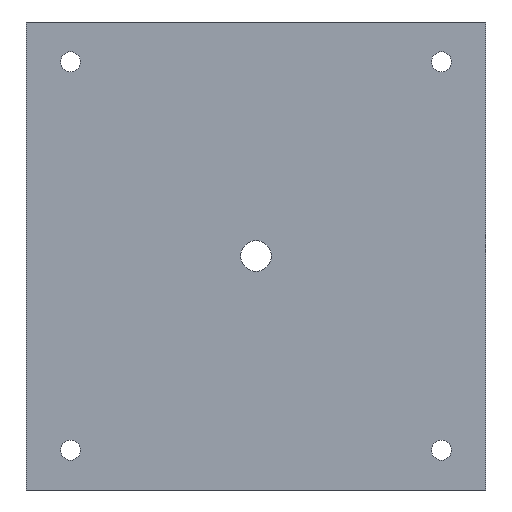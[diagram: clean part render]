
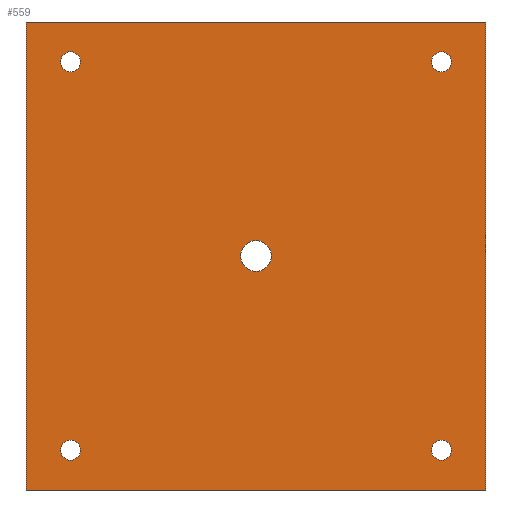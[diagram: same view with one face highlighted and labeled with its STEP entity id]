
A CAD part, front view. The second image highlights one B-rep face of the part: STEP entity #559.
In plain terms, the highlighted planar face has unit normal (0, -1, 0).
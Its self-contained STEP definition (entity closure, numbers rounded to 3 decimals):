
#24 = VERTEX_POINT('',#25);
#25 = CARTESIAN_POINT('',(-52.,-7.,-53.));
#32 = PLANE('',#33);
#33 = AXIS2_PLACEMENT_3D('',#34,#35,#36);
#34 = CARTESIAN_POINT('',(-52.,0.,-53.));
#35 = DIRECTION('',(-0.,0.,1.));
#36 = DIRECTION('',(1.,0.,0.));
#44 = PLANE('',#45);
#45 = AXIS2_PLACEMENT_3D('',#46,#47,#48);
#46 = CARTESIAN_POINT('',(-52.,0.,53.));
#47 = DIRECTION('',(1.,0.,0.));
#48 = DIRECTION('',(0.,0.,-1.));
#56 = EDGE_CURVE('',#24,#57,#59,.T.);
#57 = VERTEX_POINT('',#58);
#58 = CARTESIAN_POINT('',(52.,-7.,-53.));
#59 = SURFACE_CURVE('',#60,(#64,#71),.PCURVE_S1.);
#60 = LINE('',#61,#62);
#61 = CARTESIAN_POINT('',(-52.,-7.,-53.));
#62 = VECTOR('',#63,1.);
#63 = DIRECTION('',(1.,0.,0.));
#64 = PCURVE('',#32,#65);
#65 = DEFINITIONAL_REPRESENTATION('',(#66),#70);
#66 = LINE('',#67,#68);
#67 = CARTESIAN_POINT('',(0.,-7.));
#68 = VECTOR('',#69,1.);
#69 = DIRECTION('',(1.,0.));
#70 = ( GEOMETRIC_REPRESENTATION_CONTEXT(2) 
PARAMETRIC_REPRESENTATION_CONTEXT() REPRESENTATION_CONTEXT('2D SPACE',''
  ) );
#71 = PCURVE('',#72,#77);
#72 = PLANE('',#73);
#73 = AXIS2_PLACEMENT_3D('',#74,#75,#76);
#74 = CARTESIAN_POINT('',(0.,-7.,0.));
#75 = DIRECTION('',(-0.,-1.,-0.));
#76 = DIRECTION('',(0.,0.,-1.));
#77 = DEFINITIONAL_REPRESENTATION('',(#78),#82);
#78 = LINE('',#79,#80);
#79 = CARTESIAN_POINT('',(53.,-52.));
#80 = VECTOR('',#81,1.);
#81 = DIRECTION('',(0.,1.));
#82 = ( GEOMETRIC_REPRESENTATION_CONTEXT(2) 
PARAMETRIC_REPRESENTATION_CONTEXT() REPRESENTATION_CONTEXT('2D SPACE',''
  ) );
#100 = PLANE('',#101);
#101 = AXIS2_PLACEMENT_3D('',#102,#103,#104);
#102 = CARTESIAN_POINT('',(52.,0.,-53.));
#103 = DIRECTION('',(-1.,0.,0.));
#104 = DIRECTION('',(0.,0.,1.));
#144 = VERTEX_POINT('',#145);
#145 = CARTESIAN_POINT('',(-52.,-7.,53.));
#159 = PLANE('',#160);
#160 = AXIS2_PLACEMENT_3D('',#161,#162,#163);
#161 = CARTESIAN_POINT('',(52.,0.,53.));
#162 = DIRECTION('',(-0.,-0.,-1.));
#163 = DIRECTION('',(-1.,0.,0.));
#171 = EDGE_CURVE('',#144,#24,#172,.T.);
#172 = SURFACE_CURVE('',#173,(#177,#184),.PCURVE_S1.);
#173 = LINE('',#174,#175);
#174 = CARTESIAN_POINT('',(-52.,-7.,53.));
#175 = VECTOR('',#176,1.);
#176 = DIRECTION('',(0.,0.,-1.));
#177 = PCURVE('',#44,#178);
#178 = DEFINITIONAL_REPRESENTATION('',(#179),#183);
#179 = LINE('',#180,#181);
#180 = CARTESIAN_POINT('',(0.,-7.));
#181 = VECTOR('',#182,1.);
#182 = DIRECTION('',(1.,0.));
#183 = ( GEOMETRIC_REPRESENTATION_CONTEXT(2) 
PARAMETRIC_REPRESENTATION_CONTEXT() REPRESENTATION_CONTEXT('2D SPACE',''
  ) );
#184 = PCURVE('',#72,#185);
#185 = DEFINITIONAL_REPRESENTATION('',(#186),#190);
#186 = LINE('',#187,#188);
#187 = CARTESIAN_POINT('',(-53.,-52.));
#188 = VECTOR('',#189,1.);
#189 = DIRECTION('',(1.,0.));
#190 = ( GEOMETRIC_REPRESENTATION_CONTEXT(2) 
PARAMETRIC_REPRESENTATION_CONTEXT() REPRESENTATION_CONTEXT('2D SPACE',''
  ) );
#218 = EDGE_CURVE('',#57,#219,#221,.T.);
#219 = VERTEX_POINT('',#220);
#220 = CARTESIAN_POINT('',(52.,-7.,53.));
#221 = SURFACE_CURVE('',#222,(#226,#233),.PCURVE_S1.);
#222 = LINE('',#223,#224);
#223 = CARTESIAN_POINT('',(52.,-7.,-53.));
#224 = VECTOR('',#225,1.);
#225 = DIRECTION('',(0.,0.,1.));
#226 = PCURVE('',#100,#227);
#227 = DEFINITIONAL_REPRESENTATION('',(#228),#232);
#228 = LINE('',#229,#230);
#229 = CARTESIAN_POINT('',(0.,-7.));
#230 = VECTOR('',#231,1.);
#231 = DIRECTION('',(1.,0.));
#232 = ( GEOMETRIC_REPRESENTATION_CONTEXT(2) 
PARAMETRIC_REPRESENTATION_CONTEXT() REPRESENTATION_CONTEXT('2D SPACE',''
  ) );
#233 = PCURVE('',#72,#234);
#234 = DEFINITIONAL_REPRESENTATION('',(#235),#239);
#235 = LINE('',#236,#237);
#236 = CARTESIAN_POINT('',(53.,52.));
#237 = VECTOR('',#238,1.);
#238 = DIRECTION('',(-1.,0.));
#239 = ( GEOMETRIC_REPRESENTATION_CONTEXT(2) 
PARAMETRIC_REPRESENTATION_CONTEXT() REPRESENTATION_CONTEXT('2D SPACE',''
  ) );
#331 = CYLINDRICAL_SURFACE('',#332,2.25);
#332 = AXIS2_PLACEMENT_3D('',#333,#334,#335);
#333 = CARTESIAN_POINT('',(-42.,0.,44.));
#334 = DIRECTION('',(0.,-1.,0.));
#335 = DIRECTION('',(1.,0.,0.));
#362 = CYLINDRICAL_SURFACE('',#363,2.25);
#363 = AXIS2_PLACEMENT_3D('',#364,#365,#366);
#364 = CARTESIAN_POINT('',(-42.,0.,-44.));
#365 = DIRECTION('',(0.,-1.,0.));
#366 = DIRECTION('',(1.,0.,0.));
#455 = CYLINDRICAL_SURFACE('',#456,2.25);
#456 = AXIS2_PLACEMENT_3D('',#457,#458,#459);
#457 = CARTESIAN_POINT('',(42.,0.,44.));
#458 = DIRECTION('',(0.,-1.,0.));
#459 = DIRECTION('',(1.,0.,0.));
#548 = CYLINDRICAL_SURFACE('',#549,2.25);
#549 = AXIS2_PLACEMENT_3D('',#550,#551,#552);
#550 = CARTESIAN_POINT('',(42.,0.,-44.));
#551 = DIRECTION('',(0.,-1.,0.));
#552 = DIRECTION('',(1.,0.,0.));
#559 = ADVANCED_FACE('',(#560,#586,#612,#638,#664,#695),#72,.T.);
#560 = FACE_BOUND('',#561,.T.);
#561 = EDGE_LOOP('',(#562,#563,#564,#585));
#562 = ORIENTED_EDGE('',*,*,#56,.T.);
#563 = ORIENTED_EDGE('',*,*,#218,.T.);
#564 = ORIENTED_EDGE('',*,*,#565,.T.);
#565 = EDGE_CURVE('',#219,#144,#566,.T.);
#566 = SURFACE_CURVE('',#567,(#571,#578),.PCURVE_S1.);
#567 = LINE('',#568,#569);
#568 = CARTESIAN_POINT('',(52.,-7.,53.));
#569 = VECTOR('',#570,1.);
#570 = DIRECTION('',(-1.,0.,0.));
#571 = PCURVE('',#72,#572);
#572 = DEFINITIONAL_REPRESENTATION('',(#573),#577);
#573 = LINE('',#574,#575);
#574 = CARTESIAN_POINT('',(-53.,52.));
#575 = VECTOR('',#576,1.);
#576 = DIRECTION('',(0.,-1.));
#577 = ( GEOMETRIC_REPRESENTATION_CONTEXT(2) 
PARAMETRIC_REPRESENTATION_CONTEXT() REPRESENTATION_CONTEXT('2D SPACE',''
  ) );
#578 = PCURVE('',#159,#579);
#579 = DEFINITIONAL_REPRESENTATION('',(#580),#584);
#580 = LINE('',#581,#582);
#581 = CARTESIAN_POINT('',(0.,-7.));
#582 = VECTOR('',#583,1.);
#583 = DIRECTION('',(1.,0.));
#584 = ( GEOMETRIC_REPRESENTATION_CONTEXT(2) 
PARAMETRIC_REPRESENTATION_CONTEXT() REPRESENTATION_CONTEXT('2D SPACE',''
  ) );
#585 = ORIENTED_EDGE('',*,*,#171,.T.);
#586 = FACE_BOUND('',#587,.T.);
#587 = EDGE_LOOP('',(#588));
#588 = ORIENTED_EDGE('',*,*,#589,.F.);
#589 = EDGE_CURVE('',#590,#590,#592,.T.);
#590 = VERTEX_POINT('',#591);
#591 = CARTESIAN_POINT('',(-39.75,-7.,44.));
#592 = SURFACE_CURVE('',#593,(#598,#605),.PCURVE_S1.);
#593 = CIRCLE('',#594,2.25);
#594 = AXIS2_PLACEMENT_3D('',#595,#596,#597);
#595 = CARTESIAN_POINT('',(-42.,-7.,44.));
#596 = DIRECTION('',(0.,-1.,0.));
#597 = DIRECTION('',(1.,0.,0.));
#598 = PCURVE('',#72,#599);
#599 = DEFINITIONAL_REPRESENTATION('',(#600),#604);
#600 = CIRCLE('',#601,2.25);
#601 = AXIS2_PLACEMENT_2D('',#602,#603);
#602 = CARTESIAN_POINT('',(-44.,-42.));
#603 = DIRECTION('',(0.,1.));
#604 = ( GEOMETRIC_REPRESENTATION_CONTEXT(2) 
PARAMETRIC_REPRESENTATION_CONTEXT() REPRESENTATION_CONTEXT('2D SPACE',''
  ) );
#605 = PCURVE('',#331,#606);
#606 = DEFINITIONAL_REPRESENTATION('',(#607),#611);
#607 = LINE('',#608,#609);
#608 = CARTESIAN_POINT('',(0.,7.));
#609 = VECTOR('',#610,1.);
#610 = DIRECTION('',(1.,0.));
#611 = ( GEOMETRIC_REPRESENTATION_CONTEXT(2) 
PARAMETRIC_REPRESENTATION_CONTEXT() REPRESENTATION_CONTEXT('2D SPACE',''
  ) );
#612 = FACE_BOUND('',#613,.T.);
#613 = EDGE_LOOP('',(#614));
#614 = ORIENTED_EDGE('',*,*,#615,.F.);
#615 = EDGE_CURVE('',#616,#616,#618,.T.);
#616 = VERTEX_POINT('',#617);
#617 = CARTESIAN_POINT('',(-39.75,-7.,-44.));
#618 = SURFACE_CURVE('',#619,(#624,#631),.PCURVE_S1.);
#619 = CIRCLE('',#620,2.25);
#620 = AXIS2_PLACEMENT_3D('',#621,#622,#623);
#621 = CARTESIAN_POINT('',(-42.,-7.,-44.));
#622 = DIRECTION('',(0.,-1.,0.));
#623 = DIRECTION('',(1.,0.,0.));
#624 = PCURVE('',#72,#625);
#625 = DEFINITIONAL_REPRESENTATION('',(#626),#630);
#626 = CIRCLE('',#627,2.25);
#627 = AXIS2_PLACEMENT_2D('',#628,#629);
#628 = CARTESIAN_POINT('',(44.,-42.));
#629 = DIRECTION('',(0.,1.));
#630 = ( GEOMETRIC_REPRESENTATION_CONTEXT(2) 
PARAMETRIC_REPRESENTATION_CONTEXT() REPRESENTATION_CONTEXT('2D SPACE',''
  ) );
#631 = PCURVE('',#362,#632);
#632 = DEFINITIONAL_REPRESENTATION('',(#633),#637);
#633 = LINE('',#634,#635);
#634 = CARTESIAN_POINT('',(0.,7.));
#635 = VECTOR('',#636,1.);
#636 = DIRECTION('',(1.,0.));
#637 = ( GEOMETRIC_REPRESENTATION_CONTEXT(2) 
PARAMETRIC_REPRESENTATION_CONTEXT() REPRESENTATION_CONTEXT('2D SPACE',''
  ) );
#638 = FACE_BOUND('',#639,.T.);
#639 = EDGE_LOOP('',(#640));
#640 = ORIENTED_EDGE('',*,*,#641,.F.);
#641 = EDGE_CURVE('',#642,#642,#644,.T.);
#642 = VERTEX_POINT('',#643);
#643 = CARTESIAN_POINT('',(44.25,-7.,44.));
#644 = SURFACE_CURVE('',#645,(#650,#657),.PCURVE_S1.);
#645 = CIRCLE('',#646,2.25);
#646 = AXIS2_PLACEMENT_3D('',#647,#648,#649);
#647 = CARTESIAN_POINT('',(42.,-7.,44.));
#648 = DIRECTION('',(0.,-1.,0.));
#649 = DIRECTION('',(1.,0.,0.));
#650 = PCURVE('',#72,#651);
#651 = DEFINITIONAL_REPRESENTATION('',(#652),#656);
#652 = CIRCLE('',#653,2.25);
#653 = AXIS2_PLACEMENT_2D('',#654,#655);
#654 = CARTESIAN_POINT('',(-44.,42.));
#655 = DIRECTION('',(0.,1.));
#656 = ( GEOMETRIC_REPRESENTATION_CONTEXT(2) 
PARAMETRIC_REPRESENTATION_CONTEXT() REPRESENTATION_CONTEXT('2D SPACE',''
  ) );
#657 = PCURVE('',#455,#658);
#658 = DEFINITIONAL_REPRESENTATION('',(#659),#663);
#659 = LINE('',#660,#661);
#660 = CARTESIAN_POINT('',(0.,7.));
#661 = VECTOR('',#662,1.);
#662 = DIRECTION('',(1.,0.));
#663 = ( GEOMETRIC_REPRESENTATION_CONTEXT(2) 
PARAMETRIC_REPRESENTATION_CONTEXT() REPRESENTATION_CONTEXT('2D SPACE',''
  ) );
#664 = FACE_BOUND('',#665,.T.);
#665 = EDGE_LOOP('',(#666));
#666 = ORIENTED_EDGE('',*,*,#667,.F.);
#667 = EDGE_CURVE('',#668,#668,#670,.T.);
#668 = VERTEX_POINT('',#669);
#669 = CARTESIAN_POINT('',(3.5,-7.,0.));
#670 = SURFACE_CURVE('',#671,(#676,#683),.PCURVE_S1.);
#671 = CIRCLE('',#672,3.5);
#672 = AXIS2_PLACEMENT_3D('',#673,#674,#675);
#673 = CARTESIAN_POINT('',(0.,-7.,0.));
#674 = DIRECTION('',(0.,-1.,0.));
#675 = DIRECTION('',(1.,0.,0.));
#676 = PCURVE('',#72,#677);
#677 = DEFINITIONAL_REPRESENTATION('',(#678),#682);
#678 = CIRCLE('',#679,3.5);
#679 = AXIS2_PLACEMENT_2D('',#680,#681);
#680 = CARTESIAN_POINT('',(0.,0.));
#681 = DIRECTION('',(0.,1.));
#682 = ( GEOMETRIC_REPRESENTATION_CONTEXT(2) 
PARAMETRIC_REPRESENTATION_CONTEXT() REPRESENTATION_CONTEXT('2D SPACE',''
  ) );
#683 = PCURVE('',#684,#689);
#684 = CYLINDRICAL_SURFACE('',#685,3.5);
#685 = AXIS2_PLACEMENT_3D('',#686,#687,#688);
#686 = CARTESIAN_POINT('',(0.,0.,0.));
#687 = DIRECTION('',(0.,-1.,0.));
#688 = DIRECTION('',(1.,0.,0.));
#689 = DEFINITIONAL_REPRESENTATION('',(#690),#694);
#690 = LINE('',#691,#692);
#691 = CARTESIAN_POINT('',(0.,7.));
#692 = VECTOR('',#693,1.);
#693 = DIRECTION('',(1.,0.));
#694 = ( GEOMETRIC_REPRESENTATION_CONTEXT(2) 
PARAMETRIC_REPRESENTATION_CONTEXT() REPRESENTATION_CONTEXT('2D SPACE',''
  ) );
#695 = FACE_BOUND('',#696,.T.);
#696 = EDGE_LOOP('',(#697));
#697 = ORIENTED_EDGE('',*,*,#698,.F.);
#698 = EDGE_CURVE('',#699,#699,#701,.T.);
#699 = VERTEX_POINT('',#700);
#700 = CARTESIAN_POINT('',(44.25,-7.,-44.));
#701 = SURFACE_CURVE('',#702,(#707,#714),.PCURVE_S1.);
#702 = CIRCLE('',#703,2.25);
#703 = AXIS2_PLACEMENT_3D('',#704,#705,#706);
#704 = CARTESIAN_POINT('',(42.,-7.,-44.));
#705 = DIRECTION('',(0.,-1.,0.));
#706 = DIRECTION('',(1.,0.,0.));
#707 = PCURVE('',#72,#708);
#708 = DEFINITIONAL_REPRESENTATION('',(#709),#713);
#709 = CIRCLE('',#710,2.25);
#710 = AXIS2_PLACEMENT_2D('',#711,#712);
#711 = CARTESIAN_POINT('',(44.,42.));
#712 = DIRECTION('',(0.,1.));
#713 = ( GEOMETRIC_REPRESENTATION_CONTEXT(2) 
PARAMETRIC_REPRESENTATION_CONTEXT() REPRESENTATION_CONTEXT('2D SPACE',''
  ) );
#714 = PCURVE('',#548,#715);
#715 = DEFINITIONAL_REPRESENTATION('',(#716),#720);
#716 = LINE('',#717,#718);
#717 = CARTESIAN_POINT('',(0.,7.));
#718 = VECTOR('',#719,1.);
#719 = DIRECTION('',(1.,0.));
#720 = ( GEOMETRIC_REPRESENTATION_CONTEXT(2) 
PARAMETRIC_REPRESENTATION_CONTEXT() REPRESENTATION_CONTEXT('2D SPACE',''
  ) );
